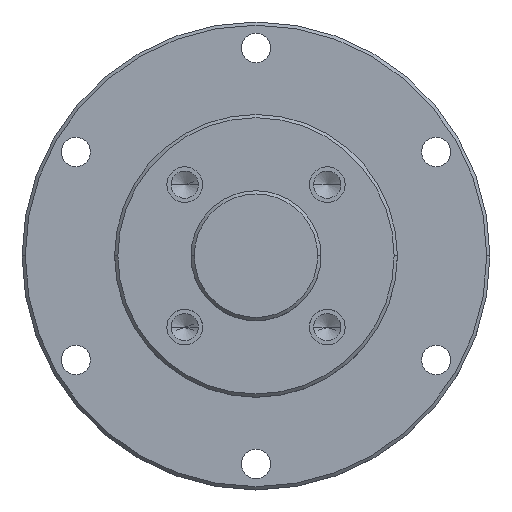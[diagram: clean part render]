
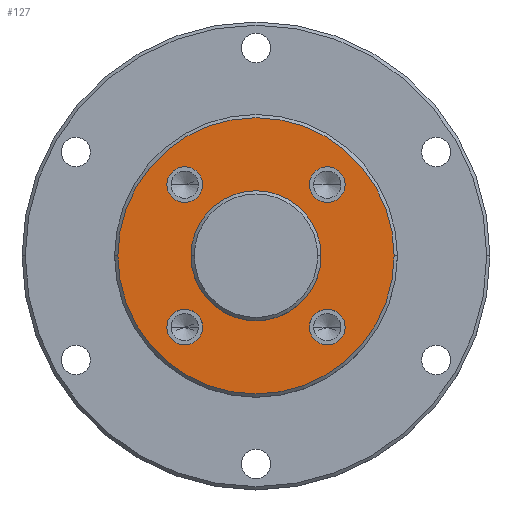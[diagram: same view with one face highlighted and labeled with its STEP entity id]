
A CAD part, top view. The second image highlights one B-rep face of the part: STEP entity #127.
In plain terms, the highlighted planar face has unit normal (0, 0, 1).
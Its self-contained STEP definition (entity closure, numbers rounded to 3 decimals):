
#1 = VERTEX_POINT ( 'NONE', #1509 ) ;
#2 = FACE_OUTER_BOUND ( 'NONE', #1813, .T. ) ;
#24 = EDGE_LOOP ( 'NONE', ( #1108, #1174 ) ) ;
#25 = VERTEX_POINT ( 'NONE', #992 ) ;
#38 = CARTESIAN_POINT ( 'NONE',  ( 10., 0., 0. ) ) ;
#98 = AXIS2_PLACEMENT_3D ( 'NONE', #1316, #303, #1473 ) ;
#106 = CIRCLE ( 'NONE', #283, 2.75 ) ;
#112 = CIRCLE ( 'NONE', #352, 10. ) ;
#127 = ADVANCED_FACE ( 'NONE', ( #1729, #2, #583, #1459, #694, #1164 ), #1000, .F. ) ;
#158 = CARTESIAN_POINT ( 'NONE',  ( 13.71, -10.96, 0. ) ) ;
#211 = DIRECTION ( 'NONE',  ( 0., 0., 1. ) ) ;
#245 = EDGE_LOOP ( 'NONE', ( #1407, #1410 ) ) ;
#264 = AXIS2_PLACEMENT_3D ( 'NONE', #1882, #868, #2056 ) ;
#271 = CARTESIAN_POINT ( 'NONE',  ( 10.96, -10.96, 0. ) ) ;
#277 = VERTEX_POINT ( 'NONE', #2199 ) ;
#280 = CARTESIAN_POINT ( 'NONE',  ( 0., 0., 0. ) ) ;
#283 = AXIS2_PLACEMENT_3D ( 'NONE', #610, #1788, #781 ) ;
#299 = CIRCLE ( 'NONE', #1771, 21.25 ) ;
#303 = DIRECTION ( 'NONE',  ( 0., 0., 1. ) ) ;
#338 = CIRCLE ( 'NONE', #2102, 2.75 ) ;
#352 = AXIS2_PLACEMENT_3D ( 'NONE', #280, #1453, #456 ) ;
#369 = CARTESIAN_POINT ( 'NONE',  ( -10.96, -10.96, 0. ) ) ;
#379 = CIRCLE ( 'NONE', #861, 21.25 ) ;
#408 = CARTESIAN_POINT ( 'NONE',  ( 13.71, 10.96, 0. ) ) ;
#453 = DIRECTION ( 'NONE',  ( 1., 0., 0. ) ) ;
#456 = DIRECTION ( 'NONE',  ( 1., 0., 0. ) ) ;
#490 = EDGE_LOOP ( 'NONE', ( #1233, #1285 ) ) ;
#507 = CARTESIAN_POINT ( 'NONE',  ( -10.96, 10.96, 0. ) ) ;
#512 = AXIS2_PLACEMENT_3D ( 'NONE', #1686, #1853, #687 ) ;
#534 = DIRECTION ( 'NONE',  ( -1., 0., 0. ) ) ;
#535 = CARTESIAN_POINT ( 'NONE',  ( 8.21, 10.96, 0. ) ) ;
#544 = VERTEX_POINT ( 'NONE', #2130 ) ;
#549 = EDGE_LOOP ( 'NONE', ( #2211, #1615 ) ) ;
#576 = CIRCLE ( 'NONE', #973, 2.75 ) ;
#583 = FACE_BOUND ( 'NONE', #490, .T. ) ;
#595 = EDGE_CURVE ( 'NONE', #1, #1972, #106, .T. ) ;
#603 = ORIENTED_EDGE ( 'NONE', *, *, #1220, .T. ) ;
#610 = CARTESIAN_POINT ( 'NONE',  ( 10.96, -10.96, 0. ) ) ;
#613 = DIRECTION ( 'NONE',  ( 0., 0., 1. ) ) ;
#673 = DIRECTION ( 'NONE',  ( 1., 0., 0. ) ) ;
#687 = DIRECTION ( 'NONE',  ( -1., 0., 0. ) ) ;
#694 = FACE_BOUND ( 'NONE', #245, .T. ) ;
#741 = CARTESIAN_POINT ( 'NONE',  ( 10.96, 10.96, 0. ) ) ;
#754 = EDGE_CURVE ( 'NONE', #1383, #1617, #1412, .T. ) ;
#781 = DIRECTION ( 'NONE',  ( 1., 0., 0. ) ) ;
#861 = AXIS2_PLACEMENT_3D ( 'NONE', #1609, #613, #1793 ) ;
#868 = DIRECTION ( 'NONE',  ( 0., 0., 1. ) ) ;
#885 = EDGE_LOOP ( 'NONE', ( #1305, #1313 ) ) ;
#903 = DIRECTION ( 'NONE',  ( 0., 0., 1. ) ) ;
#904 = DIRECTION ( 'NONE',  ( -1., 0., 0. ) ) ;
#905 = EDGE_CURVE ( 'NONE', #25, #1653, #1782, .T. ) ;
#973 = AXIS2_PLACEMENT_3D ( 'NONE', #1237, #211, #1394 ) ;
#992 = CARTESIAN_POINT ( 'NONE',  ( -8.21, 10.96, 0. ) ) ;
#999 = DIRECTION ( 'NONE',  ( 0., 0., 1. ) ) ;
#1000 = PLANE ( 'NONE',  #512 ) ;
#1006 = CIRCLE ( 'NONE', #1636, 2.75 ) ;
#1087 = EDGE_CURVE ( 'NONE', #1617, #1383, #112, .T. ) ;
#1108 = ORIENTED_EDGE ( 'NONE', *, *, #754, .F. ) ;
#1164 = FACE_BOUND ( 'NONE', #549, .T. ) ;
#1170 = VERTEX_POINT ( 'NONE', #1587 ) ;
#1174 = ORIENTED_EDGE ( 'NONE', *, *, #1087, .F. ) ;
#1180 = ORIENTED_EDGE ( 'NONE', *, *, #1917, .T. ) ;
#1212 = AXIS2_PLACEMENT_3D ( 'NONE', #507, #1676, #673 ) ;
#1213 = CARTESIAN_POINT ( 'NONE',  ( -13.71, 10.96, 0. ) ) ;
#1220 = EDGE_CURVE ( 'NONE', #1726, #277, #379, .T. ) ;
#1233 = ORIENTED_EDGE ( 'NONE', *, *, #905, .F. ) ;
#1237 = CARTESIAN_POINT ( 'NONE',  ( 10.96, 10.96, 0. ) ) ;
#1243 = EDGE_CURVE ( 'NONE', #1972, #1, #338, .T. ) ;
#1250 = AXIS2_PLACEMENT_3D ( 'NONE', #741, #1921, #904 ) ;
#1285 = ORIENTED_EDGE ( 'NONE', *, *, #1914, .F. ) ;
#1305 = ORIENTED_EDGE ( 'NONE', *, *, #1548, .F. ) ;
#1313 = ORIENTED_EDGE ( 'NONE', *, *, #1451, .F. ) ;
#1316 = CARTESIAN_POINT ( 'NONE',  ( 0., 0., 0. ) ) ;
#1320 = EDGE_CURVE ( 'NONE', #2161, #1751, #576, .T. ) ;
#1383 = VERTEX_POINT ( 'NONE', #38 ) ;
#1394 = DIRECTION ( 'NONE',  ( -1., 0., 0. ) ) ;
#1397 = CARTESIAN_POINT ( 'NONE',  ( 21.25, 0., 0. ) ) ;
#1407 = ORIENTED_EDGE ( 'NONE', *, *, #1712, .F. ) ;
#1410 = ORIENTED_EDGE ( 'NONE', *, *, #1320, .F. ) ;
#1412 = CIRCLE ( 'NONE', #98, 10. ) ;
#1446 = DIRECTION ( 'NONE',  ( 0., 0., 1. ) ) ;
#1451 = EDGE_CURVE ( 'NONE', #1170, #544, #1475, .T. ) ;
#1453 = DIRECTION ( 'NONE',  ( 0., 0., 1. ) ) ;
#1459 = FACE_BOUND ( 'NONE', #885, .T. ) ;
#1473 = DIRECTION ( 'NONE',  ( 1., 0., 0. ) ) ;
#1475 = CIRCLE ( 'NONE', #2114, 2.75 ) ;
#1509 = CARTESIAN_POINT ( 'NONE',  ( 8.21, -10.96, 0. ) ) ;
#1531 = DIRECTION ( 'NONE',  ( 0., 0., 1. ) ) ;
#1548 = EDGE_CURVE ( 'NONE', #544, #1170, #1006, .T. ) ;
#1575 = CIRCLE ( 'NONE', #1212, 2.75 ) ;
#1587 = CARTESIAN_POINT ( 'NONE',  ( -13.71, -10.96, 0. ) ) ;
#1609 = CARTESIAN_POINT ( 'NONE',  ( 0., 0., 0. ) ) ;
#1615 = ORIENTED_EDGE ( 'NONE', *, *, #595, .F. ) ;
#1617 = VERTEX_POINT ( 'NONE', #2220 ) ;
#1636 = AXIS2_PLACEMENT_3D ( 'NONE', #1920, #903, #2100 ) ;
#1653 = VERTEX_POINT ( 'NONE', #1213 ) ;
#1676 = DIRECTION ( 'NONE',  ( 0., 0., 1. ) ) ;
#1686 = CARTESIAN_POINT ( 'NONE',  ( 0., 21.75, 0. ) ) ;
#1712 = EDGE_CURVE ( 'NONE', #1751, #2161, #1752, .T. ) ;
#1726 = VERTEX_POINT ( 'NONE', #1397 ) ;
#1729 = FACE_BOUND ( 'NONE', #24, .T. ) ;
#1751 = VERTEX_POINT ( 'NONE', #408 ) ;
#1752 = CIRCLE ( 'NONE', #1250, 2.75 ) ;
#1771 = AXIS2_PLACEMENT_3D ( 'NONE', #2028, #999, #2197 ) ;
#1782 = CIRCLE ( 'NONE', #264, 2.75 ) ;
#1788 = DIRECTION ( 'NONE',  ( 0., 0., 1. ) ) ;
#1793 = DIRECTION ( 'NONE',  ( -1., 0., 0. ) ) ;
#1813 = EDGE_LOOP ( 'NONE', ( #1180, #603 ) ) ;
#1853 = DIRECTION ( 'NONE',  ( 0., 0., -1. ) ) ;
#1882 = CARTESIAN_POINT ( 'NONE',  ( -10.96, 10.96, 0. ) ) ;
#1914 = EDGE_CURVE ( 'NONE', #1653, #25, #1575, .T. ) ;
#1917 = EDGE_CURVE ( 'NONE', #277, #1726, #299, .T. ) ;
#1920 = CARTESIAN_POINT ( 'NONE',  ( -10.96, -10.96, 0. ) ) ;
#1921 = DIRECTION ( 'NONE',  ( 0., 0., 1. ) ) ;
#1972 = VERTEX_POINT ( 'NONE', #158 ) ;
#2028 = CARTESIAN_POINT ( 'NONE',  ( 0., 0., 0. ) ) ;
#2056 = DIRECTION ( 'NONE',  ( 1., 0., 0. ) ) ;
#2100 = DIRECTION ( 'NONE',  ( -1., 0., 0. ) ) ;
#2102 = AXIS2_PLACEMENT_3D ( 'NONE', #271, #1446, #453 ) ;
#2114 = AXIS2_PLACEMENT_3D ( 'NONE', #369, #1531, #534 ) ;
#2130 = CARTESIAN_POINT ( 'NONE',  ( -8.21, -10.96, 0. ) ) ;
#2161 = VERTEX_POINT ( 'NONE', #535 ) ;
#2197 = DIRECTION ( 'NONE',  ( -1., 0., 0. ) ) ;
#2199 = CARTESIAN_POINT ( 'NONE',  ( -21.25, 0., 0. ) ) ;
#2211 = ORIENTED_EDGE ( 'NONE', *, *, #1243, .F. ) ;
#2220 = CARTESIAN_POINT ( 'NONE',  ( -10., 0., 0. ) ) ;
